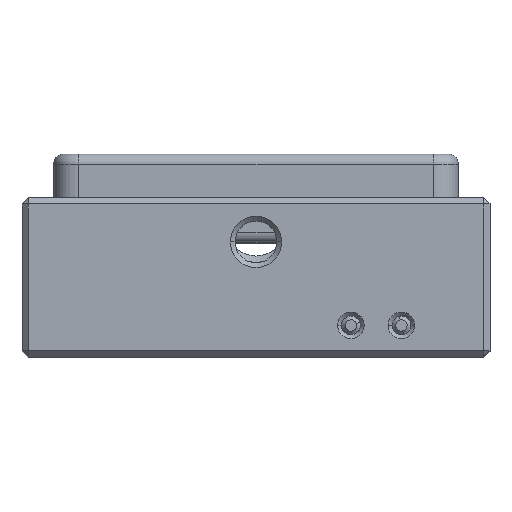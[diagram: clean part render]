
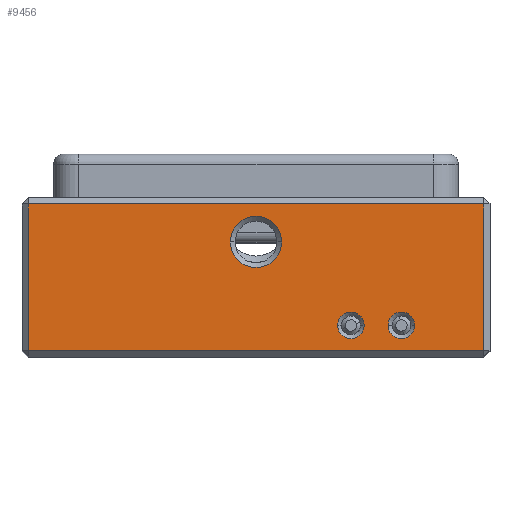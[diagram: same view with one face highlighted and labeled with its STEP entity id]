
A CAD part, top view. The second image highlights one B-rep face of the part: STEP entity #9456.
In plain terms, the highlighted planar face has unit normal (0, 0, 1).
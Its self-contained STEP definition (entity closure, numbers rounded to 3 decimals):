
#290 = CARTESIAN_POINT ( 'NONE',  ( 0., 9.1, 22. ) ) ;
#330 = CARTESIAN_POINT ( 'NONE',  ( 18., 14.2, 22. ) ) ;
#340 = DIRECTION ( 'NONE',  ( 1., 0., 0. ) ) ;
#466 = ORIENTED_EDGE ( 'NONE', *, *, #5862, .F. ) ;
#531 = CARTESIAN_POINT ( 'NONE',  ( -18., 0.5, 22. ) ) ;
#646 = VERTEX_POINT ( 'NONE', #7553 ) ;
#777 = DIRECTION ( 'NONE',  ( 0., 0., -1. ) ) ;
#803 = EDGE_CURVE ( 'NONE', #11469, #646, #4320, .T. ) ;
#981 = ORIENTED_EDGE ( 'NONE', *, *, #6649, .T. ) ;
#1115 = AXIS2_PLACEMENT_3D ( 'NONE', #6202, #2409, #6335 ) ;
#1138 = CIRCLE ( 'NONE', #9619, 2.025 ) ;
#1238 = DIRECTION ( 'NONE',  ( 0., 0., 1. ) ) ;
#1280 = VERTEX_POINT ( 'NONE', #7310 ) ;
#1298 = EDGE_LOOP ( 'NONE', ( #466, #11189 ) ) ;
#1412 = LINE ( 'NONE', #10306, #8783 ) ;
#1544 = CARTESIAN_POINT ( 'NONE',  ( 12.55, 2.5, 22. ) ) ;
#2045 = CARTESIAN_POINT ( 'NONE',  ( -18., 12.1, 22. ) ) ;
#2111 = EDGE_CURVE ( 'NONE', #646, #5100, #4212, .T. ) ;
#2196 = CARTESIAN_POINT ( 'NONE',  ( 11.5, 2.5, 22. ) ) ;
#2260 = VERTEX_POINT ( 'NONE', #1544 ) ;
#2398 = DIRECTION ( 'NONE',  ( 0., 1., 0. ) ) ;
#2409 = DIRECTION ( 'NONE',  ( 0., 0., -1. ) ) ;
#2414 = CARTESIAN_POINT ( 'NONE',  ( 11.5, 2.5, 22. ) ) ;
#2572 = CARTESIAN_POINT ( 'NONE',  ( -18., 14.2, 22. ) ) ;
#3123 = DIRECTION ( 'NONE',  ( 0., 0., -1. ) ) ;
#3152 = ORIENTED_EDGE ( 'NONE', *, *, #11535, .T. ) ;
#3435 = DIRECTION ( 'NONE',  ( -1., 0., 0. ) ) ;
#3698 = DIRECTION ( 'NONE',  ( 0., -1., 0. ) ) ;
#3960 = VECTOR ( 'NONE', #3698, 1000. ) ;
#3991 = DIRECTION ( 'NONE',  ( -1., 0., 0. ) ) ;
#4172 = CARTESIAN_POINT ( 'NONE',  ( -2.025, 9.1, 22. ) ) ;
#4212 = LINE ( 'NONE', #9324, #10708 ) ;
#4320 = LINE ( 'NONE', #330, #6315 ) ;
#4417 = ORIENTED_EDGE ( 'NONE', *, *, #12086, .T. ) ;
#4652 = CARTESIAN_POINT ( 'NONE',  ( 2.025, 9.1, 22. ) ) ;
#4820 = EDGE_LOOP ( 'NONE', ( #6650, #981, #8402, #13126 ) ) ;
#5073 = FACE_BOUND ( 'NONE', #10688, .T. ) ;
#5100 = VERTEX_POINT ( 'NONE', #2045 ) ;
#5201 = FACE_BOUND ( 'NONE', #1298, .T. ) ;
#5244 = DIRECTION ( 'NONE',  ( -1., 0., 0. ) ) ;
#5303 = CIRCLE ( 'NONE', #12710, 1.05 ) ;
#5421 = CARTESIAN_POINT ( 'NONE',  ( 18., 0.5, 22. ) ) ;
#5442 = CARTESIAN_POINT ( 'NONE',  ( 10.45, 2.5, 22. ) ) ;
#5862 = EDGE_CURVE ( 'NONE', #6187, #11277, #7350, .T. ) ;
#5989 = EDGE_CURVE ( 'NONE', #12219, #2260, #13053, .T. ) ;
#6187 = VERTEX_POINT ( 'NONE', #4652 ) ;
#6202 = CARTESIAN_POINT ( 'NONE',  ( -18.5, 14.2, 22. ) ) ;
#6220 = CIRCLE ( 'NONE', #11087, 1.05 ) ;
#6310 = VERTEX_POINT ( 'NONE', #12935 ) ;
#6315 = VECTOR ( 'NONE', #2398, 1000. ) ;
#6335 = DIRECTION ( 'NONE',  ( -1., 0., 0. ) ) ;
#6622 = DIRECTION ( 'NONE',  ( -1., 0., 0. ) ) ;
#6636 = ORIENTED_EDGE ( 'NONE', *, *, #9884, .T. ) ;
#6649 = EDGE_CURVE ( 'NONE', #5100, #12597, #11653, .T. ) ;
#6650 = ORIENTED_EDGE ( 'NONE', *, *, #2111, .T. ) ;
#6731 = AXIS2_PLACEMENT_3D ( 'NONE', #9101, #13083, #6865 ) ;
#6865 = DIRECTION ( 'NONE',  ( 1., 0., 0. ) ) ;
#7310 = CARTESIAN_POINT ( 'NONE',  ( 6.45, 2.5, 22. ) ) ;
#7350 = CIRCLE ( 'NONE', #6731, 2.025 ) ;
#7377 = EDGE_LOOP ( 'NONE', ( #4417, #12013 ) ) ;
#7383 = DIRECTION ( 'NONE',  ( 0., 0., -1. ) ) ;
#7553 = CARTESIAN_POINT ( 'NONE',  ( 18., 12.1, 22. ) ) ;
#7564 = DIRECTION ( 'NONE',  ( 0., 0., -1. ) ) ;
#7625 = CARTESIAN_POINT ( 'NONE',  ( 7.5, 2.5, 22. ) ) ;
#7935 = CIRCLE ( 'NONE', #10441, 1.05 ) ;
#8203 = AXIS2_PLACEMENT_3D ( 'NONE', #2196, #7383, #5244 ) ;
#8402 = ORIENTED_EDGE ( 'NONE', *, *, #9503, .T. ) ;
#8783 = VECTOR ( 'NONE', #340, 1000. ) ;
#9101 = CARTESIAN_POINT ( 'NONE',  ( 0., 9.1, 22. ) ) ;
#9324 = CARTESIAN_POINT ( 'NONE',  ( -18.5, 12.1, 22. ) ) ;
#9456 = ADVANCED_FACE ( 'NONE', ( #13097, #12105, #5073, #5201 ), #12486, .F. ) ;
#9503 = EDGE_CURVE ( 'NONE', #12597, #11469, #1412, .T. ) ;
#9527 = DIRECTION ( 'NONE',  ( 1., 0., 0. ) ) ;
#9619 = AXIS2_PLACEMENT_3D ( 'NONE', #290, #1238, #9527 ) ;
#9884 = EDGE_CURVE ( 'NONE', #1280, #6310, #7935, .T. ) ;
#10306 = CARTESIAN_POINT ( 'NONE',  ( -18.5, 0.5, 22. ) ) ;
#10381 = EDGE_CURVE ( 'NONE', #11277, #6187, #1138, .T. ) ;
#10441 = AXIS2_PLACEMENT_3D ( 'NONE', #7625, #7564, #3435 ) ;
#10688 = EDGE_LOOP ( 'NONE', ( #3152, #6636 ) ) ;
#10708 = VECTOR ( 'NONE', #12299, 1000. ) ;
#11087 = AXIS2_PLACEMENT_3D ( 'NONE', #12838, #777, #6622 ) ;
#11189 = ORIENTED_EDGE ( 'NONE', *, *, #10381, .F. ) ;
#11277 = VERTEX_POINT ( 'NONE', #4172 ) ;
#11469 = VERTEX_POINT ( 'NONE', #5421 ) ;
#11535 = EDGE_CURVE ( 'NONE', #6310, #1280, #6220, .T. ) ;
#11653 = LINE ( 'NONE', #2572, #3960 ) ;
#12013 = ORIENTED_EDGE ( 'NONE', *, *, #5989, .T. ) ;
#12086 = EDGE_CURVE ( 'NONE', #2260, #12219, #5303, .T. ) ;
#12105 = FACE_BOUND ( 'NONE', #7377, .T. ) ;
#12219 = VERTEX_POINT ( 'NONE', #5442 ) ;
#12299 = DIRECTION ( 'NONE',  ( -1., 0., 0. ) ) ;
#12486 = PLANE ( 'NONE',  #1115 ) ;
#12597 = VERTEX_POINT ( 'NONE', #531 ) ;
#12710 = AXIS2_PLACEMENT_3D ( 'NONE', #2414, #3123, #3991 ) ;
#12838 = CARTESIAN_POINT ( 'NONE',  ( 7.5, 2.5, 22. ) ) ;
#12935 = CARTESIAN_POINT ( 'NONE',  ( 8.55, 2.5, 22. ) ) ;
#13053 = CIRCLE ( 'NONE', #8203, 1.05 ) ;
#13083 = DIRECTION ( 'NONE',  ( 0., 0., 1. ) ) ;
#13097 = FACE_OUTER_BOUND ( 'NONE', #4820, .T. ) ;
#13126 = ORIENTED_EDGE ( 'NONE', *, *, #803, .T. ) ;
